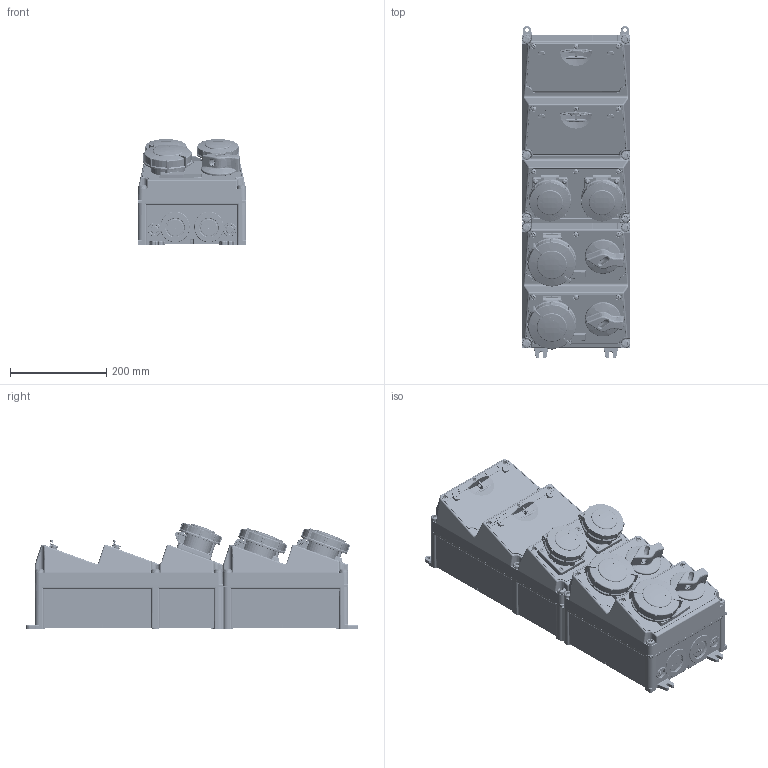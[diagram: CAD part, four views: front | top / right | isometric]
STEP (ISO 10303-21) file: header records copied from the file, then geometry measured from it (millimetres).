
FILE_DESCRIPTION((''),'2;1');
FILE_NAME('900946-1_ASM_1_ASM','2018-06-18T',('prakek'),('MENNEKES'),'PRO/ENGINEER BY PARAMETRIC TECHNOLOGY CORPORATION, 2015440','PRO/ENGINEER BY PARAMETRIC TECHNOLOGY CORPORATION, 2015440','');
FILE_SCHEMA(('AUTOMOTIVE_DESIGN { 1 0 10303 214 1 1 1 1 }'));
Products named in the file (12): 5-4_SW_O_GRAU_1; MANIFOLD_SOLID_BREP_336600; MANIFOLD_SOLID_BREP_424963; MANIFOLD_SOLID_BREP_425300; MANIFOLD_SOLID_BREP_427779; FI_4POL_4TE_1_ASM; LS_3POL_3TE_1; MP_LEER_GRAU_1; MP_FEN10_67_OBEN_GRAU_1; MP_DUO_32_5_67_ROT_GRAU_1; FL75X75_CEE_16_5_67_ROT_1; 900946-1_ASM_1_ASM
Assembly tree (17 placements, depth 3):
  900946-1_ASM_1_ASM
    5-4_SW_O_GRAU_1
    FI_4POL_4TE_1_ASM
      MANIFOLD_SOLID_BREP_336600
      MANIFOLD_SOLID_BREP_424963
      MANIFOLD_SOLID_BREP_425300
      MANIFOLD_SOLID_BREP_427779
    LS_3POL_3TE_1  x4
    MP_LEER_GRAU_1
    MP_FEN10_67_OBEN_GRAU_1  x2
    MP_DUO_32_5_67_ROT_GRAU_1  x2
    FL75X75_CEE_16_5_67_ROT_1  x2
Bounding box: 225 x 688.2 x 219.98 mm (x, y, z)
Volume: 17647080.1 mm3; surface area: 1805613.5 mm2
Topology: 16 solids, 16 shells, 20775 faces, 57336 edges, 36578 vertices
Faces by surface type: plane 10436, cylinder 5169, bspline 2127, torus 1644, cone 672, sphere 493, extrusion 234
Entity records: 681580 total; most frequent: CARTESIAN_POINT 207132, ORIENTED_EDGE 76006, DIRECTION 65519, EDGE_CURVE 38003, PRESENTATION_STYLE_ASSIGNMENT 24600, VERTEX_POINT 24230, AXIS2_PLACEMENT_3D 22469, STYLED_ITEM 21489
